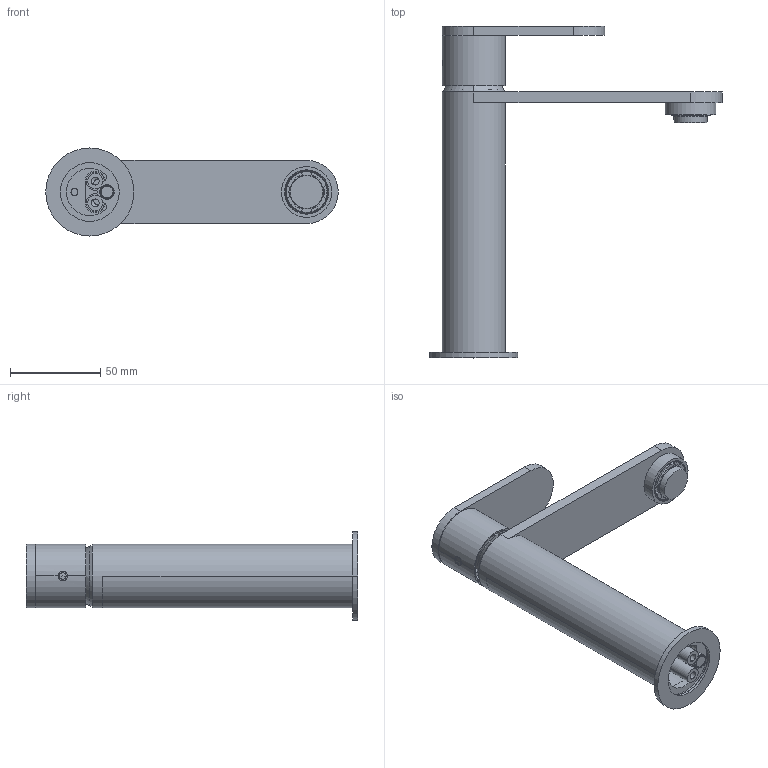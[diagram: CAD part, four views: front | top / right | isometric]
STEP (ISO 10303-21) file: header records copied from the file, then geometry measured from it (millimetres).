
FILE_DESCRIPTION((''),'2;1');
FILE_NAME('7905021_SW0001','2026-10-05T14:12:59',('carloff'),(''),'CREO PARAMETRIC BY PTC INC, 2025443','CREO PARAMETRIC BY PTC INC, 2025443','');
FILE_SCHEMA(('CONFIG_CONTROL_DESIGN'));
Length unit declared in the file: millimetre
Products named in the file (1): 7905021_SW0001
Bounding box: 161.9 x 183.7 x 48.8 mm (x, y, z)
Volume: 136091.3 mm3; surface area: 93940.7 mm2
Topology: 1 solids, 3 shells, 1300 faces, 3324 edges, 2008 vertices
Faces by surface type: cylinder 504, plane 359, torus 153, cone 109, bspline 105, sphere 70
Entity records: 58765 total; most frequent: CARTESIAN_POINT 28034, ORIENTED_EDGE 6518, DIRECTION 6466, EDGE_CURVE 3259, AXIS2_PLACEMENT_3D 2635, VERTEX_POINT 2008, CIRCLE 1440, EDGE_LOOP 1405
